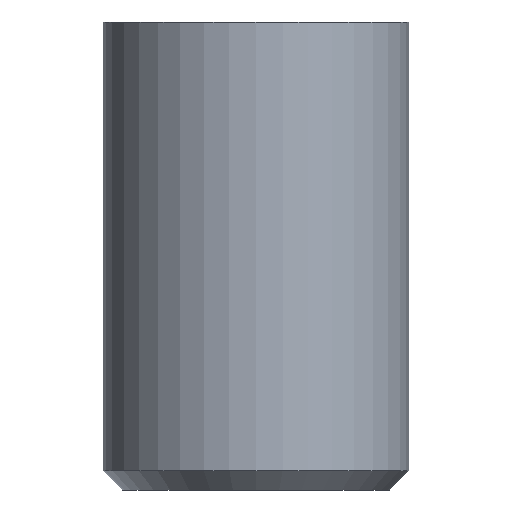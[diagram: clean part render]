
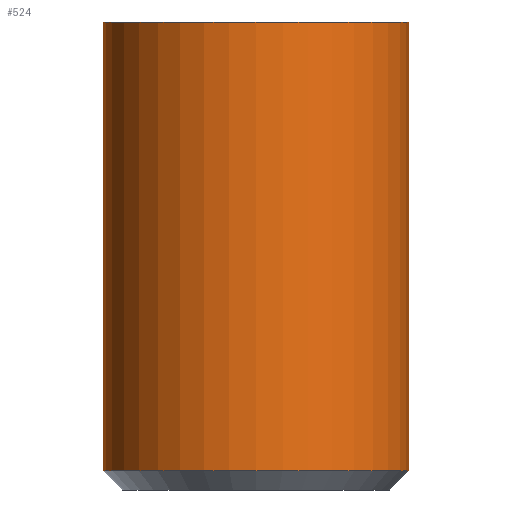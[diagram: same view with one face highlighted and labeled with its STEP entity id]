
A CAD part, front view. The second image highlights one B-rep face of the part: STEP entity #524.
In plain terms, the highlighted cylindrical face has radius 8 mm (diameter 16 mm), a partial arc.
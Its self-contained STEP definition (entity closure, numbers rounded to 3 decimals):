
#9 = VERTEX_POINT ( 'NONE', #355 ) ;
#10 = CARTESIAN_POINT ( 'NONE',  ( -8., 0., -0.5 ) ) ;
#15 = EDGE_CURVE ( 'NONE', #254, #280, #299, .T. ) ;
#79 = AXIS2_PLACEMENT_3D ( 'NONE', #515, #340, #427 ) ;
#86 = VECTOR ( 'NONE', #184, 1000. ) ;
#125 = CIRCLE ( 'NONE', #428, 8. ) ;
#126 = CARTESIAN_POINT ( 'NONE',  ( 0., 0., -24. ) ) ;
#128 = VERTEX_POINT ( 'NONE', #140 ) ;
#140 = CARTESIAN_POINT ( 'NONE',  ( 8., 0., -24. ) ) ;
#142 = AXIS2_PLACEMENT_3D ( 'NONE', #228, #368, #464 ) ;
#184 = DIRECTION ( 'NONE',  ( 0., 0., -1. ) ) ;
#209 = ORIENTED_EDGE ( 'NONE', *, *, #15, .T. ) ;
#215 = CARTESIAN_POINT ( 'NONE',  ( -8., 0., -24. ) ) ;
#228 = CARTESIAN_POINT ( 'NONE',  ( 0., 0., -0.5 ) ) ;
#254 = VERTEX_POINT ( 'NONE', #505 ) ;
#280 = VERTEX_POINT ( 'NONE', #215 ) ;
#295 = EDGE_CURVE ( 'NONE', #280, #128, #125, .T. ) ;
#297 = CYLINDRICAL_SURFACE ( 'NONE', #142, 8. ) ;
#299 = LINE ( 'NONE', #10, #86 ) ;
#304 = DIRECTION ( 'NONE',  ( 0., 0., 1. ) ) ;
#333 = DIRECTION ( 'NONE',  ( 0., 0., -1. ) ) ;
#340 = DIRECTION ( 'NONE',  ( 0., 0., -1. ) ) ;
#342 = ORIENTED_EDGE ( 'NONE', *, *, #491, .F. ) ;
#350 = EDGE_LOOP ( 'NONE', ( #342, #539, #209, #551 ) ) ;
#353 = LINE ( 'NONE', #512, #431 ) ;
#355 = CARTESIAN_POINT ( 'NONE',  ( 8., 0., -0.5 ) ) ;
#368 = DIRECTION ( 'NONE',  ( 0., 0., -1. ) ) ;
#427 = DIRECTION ( 'NONE',  ( -1., 0., 0. ) ) ;
#428 = AXIS2_PLACEMENT_3D ( 'NONE', #126, #304, #529 ) ;
#430 = FACE_OUTER_BOUND ( 'NONE', #350, .T. ) ;
#431 = VECTOR ( 'NONE', #333, 1000. ) ;
#464 = DIRECTION ( 'NONE',  ( -1., 0., 0. ) ) ;
#491 = EDGE_CURVE ( 'NONE', #9, #128, #353, .T. ) ;
#505 = CARTESIAN_POINT ( 'NONE',  ( -8., 0., -0.5 ) ) ;
#512 = CARTESIAN_POINT ( 'NONE',  ( 8., 0., -0.5 ) ) ;
#515 = CARTESIAN_POINT ( 'NONE',  ( 0., 0., -0.5 ) ) ;
#524 = ADVANCED_FACE ( 'NONE', ( #430 ), #297, .T. ) ;
#529 = DIRECTION ( 'NONE',  ( 1., 0., 0. ) ) ;
#539 = ORIENTED_EDGE ( 'NONE', *, *, #569, .T. ) ;
#551 = ORIENTED_EDGE ( 'NONE', *, *, #295, .T. ) ;
#558 = CIRCLE ( 'NONE', #79, 8. ) ;
#569 = EDGE_CURVE ( 'NONE', #9, #254, #558, .T. ) ;
